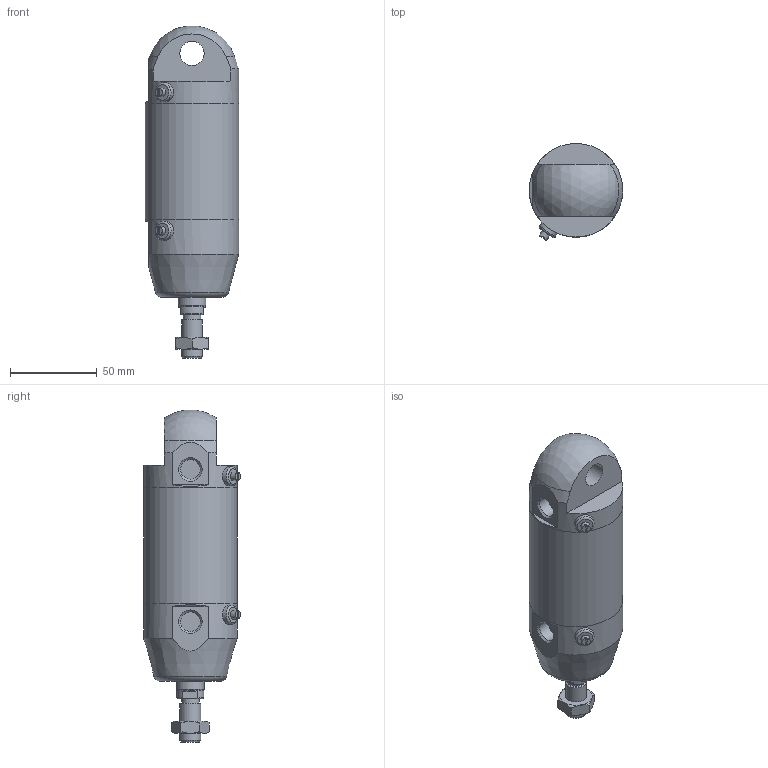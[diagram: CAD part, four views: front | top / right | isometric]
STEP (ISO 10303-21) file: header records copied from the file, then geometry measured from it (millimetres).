
FILE_DESCRIPTION(/* description */ (''),/* implementation_level */ '2;1');
FILE_NAME(/* name */ 'I:\Area Tecnica\Documenti\A-Manieri\_Inventor\12X\12X#A_###_####_#_#\12XBA_050_0025_#_#.stp',/* time_stamp */ '2015-04-24T09:18:26+02:00',/* author */ ('maniean1'),/* organization */ ('Pneumax S.p.A.'),/* preprocessor_version */ 'ST-DEVELOPER v15.2',/* originating_system */ 'Autodesk Inventor 2014',/* authorisation */ '');
FILE_SCHEMA (('AUTOMOTIVE_DESIGN { 1 0 10303 214 3 1 1 }'));
Length unit declared in the file: millimetre
Products named in the file (6): C1250_619-0025; 12X50_614; 12X50_607; S12X50_0025; 12X_50_11; 12XBA_050_0025_#_#
Bounding box: 54 x 55.88 x 191.83 mm (x, y, z)
Volume: 268053 mm3; surface area: 63423.4 mm2
Topology: 5 solids, 5 shells, 77 faces, 168 edges, 109 vertices
Faces by surface type: plane 43, cylinder 18, cone 12, torus 3, sphere 1
Full cylindrical faces by diameter (mm): 5 x2, 10.2 x1, 11 x2, 11.4 x2, 12 x2, 14 x2, 15.6 x1, 16 x1, 50 x2, 54 x3
Entity records: 2072 total; most frequent: CARTESIAN_POINT 428, DIRECTION 346, ORIENTED_EDGE 260, AXIS2_PLACEMENT_3D 152, EDGE_CURVE 130, EDGE_LOOP 122, VERTEX_POINT 100, ADVANCED_FACE 77
